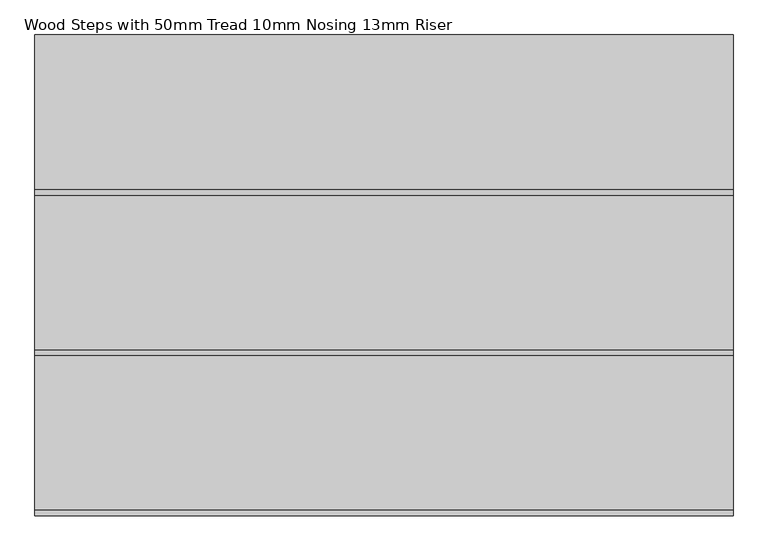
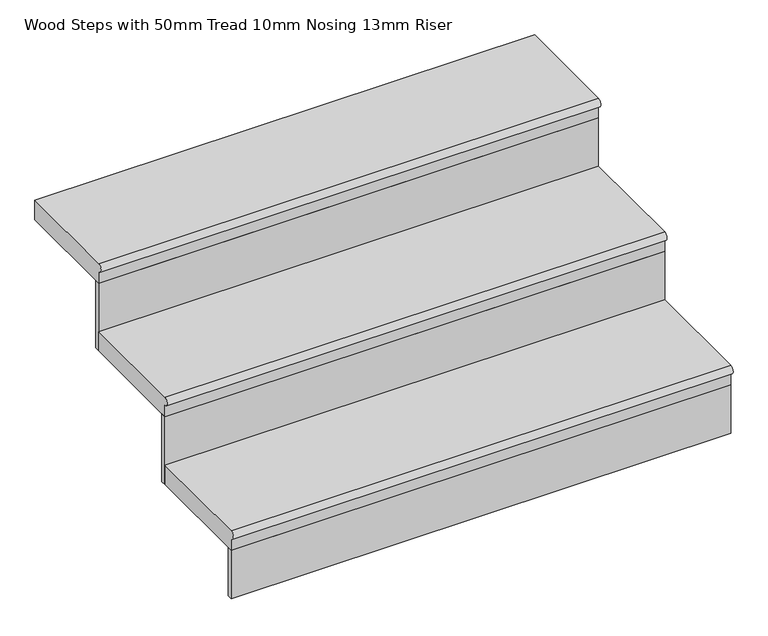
"""IFC4 building model written with IfcOpenShell, lengths in millimetres: stair flight geometry, Wood Steps with 50mm Tread 10mm Nosing 13mm Riser."""

from ifc_helpers import new_model, si_unit, point, frame, frame_2d, origin, place, context, project, spatial, polyline, circle_curve, trimmed, segment, composite_curve, outline, extrude, source, transform, mapped, element, save


def wood_steps_with_50mm_tread_10mm_nosing_13mm_riser_d08ba6e4(model_context):
    return source(origin(), model_context, "Body", "SweptSolid", [
        extrude(outline(composite_curve([segment(polyline([(1045.1293333, -6825.0), (1325.1293333, -6825.0), (1325.1293333, -6875.0), (1045.1293333, -6875.0), (1045.1293333, -6845.0)]), True, "CONTINUOUS"), segment(trimmed(circle_curve(frame_2d((1045.1293333, -6835.0)), 10.0), [point((1045.1293333, -6845.0))], [point((1045.1293333, -6825.0))], False, "CARTESIAN"), True, "CONTINUOUS")], self_intersect=False)), frame((2492.3539947, 0.0, 0.0), z_axis=(1.0, 0.0, 0.0), x_axis=(0.0, 1.0, 0.0)), (0.0, 0.0, 1.0), 1220.0),
        extrude(outline(polyline([(3712.3539947, 1057.6293333), (3712.3539947, 1045.1293333), (2492.3539947, 1045.1293333), (2492.3539947, 1057.6293333), (3712.3539947, 1057.6293333)])), frame((0.0, 0.0, -7000.0), z_axis=(0.0, 0.0, 1.0), x_axis=(1.0, 0.0, 0.0)), (0.0, 0.0, 1.0), 125.0),
        extrude(outline(composite_curve([segment(polyline([(1325.1293333, -6650.0), (1605.1293333, -6650.0), (1605.1293333, -6700.0), (1325.1293333, -6700.0), (1325.1293333, -6670.0)]), True, "CONTINUOUS"), segment(trimmed(circle_curve(frame_2d((1325.1293333, -6660.0)), 10.0), [point((1325.1293333, -6670.0))], [point((1325.1293333, -6650.0))], False, "CARTESIAN"), True, "CONTINUOUS")], self_intersect=False)), frame((2492.3539947, 0.0, 0.0), z_axis=(1.0, 0.0, 0.0), x_axis=(0.0, 1.0, 0.0)), (0.0, 0.0, 1.0), 1220.0),
        extrude(outline(polyline([(3712.3539947, 1337.6293333), (3712.3539947, 1325.1293333), (2492.3539947, 1325.1293333), (2492.3539947, 1337.6293333), (3712.3539947, 1337.6293333)])), frame((0.0, 0.0, -6875.0), z_axis=(0.0, 0.0, 1.0), x_axis=(1.0, 0.0, 0.0)), (0.0, 0.0, 1.0), 175.0),
        extrude(outline(composite_curve([segment(polyline([(1605.1293333, -6475.0), (1875.1293333, -6475.0), (1875.1293333, -6525.0), (1605.1293333, -6525.0), (1605.1293333, -6495.0)]), True, "CONTINUOUS"), segment(trimmed(circle_curve(frame_2d((1605.1293333, -6485.0)), 10.0), [point((1605.1293333, -6495.0))], [point((1605.1293333, -6475.0))], False, "CARTESIAN"), True, "CONTINUOUS")], self_intersect=False)), frame((2492.3539947, 0.0, 0.0), z_axis=(1.0, 0.0, 0.0), x_axis=(0.0, 1.0, 0.0)), (0.0, 0.0, 1.0), 1220.0),
        extrude(outline(polyline([(3712.3539947, 1617.6293333), (3712.3539947, 1605.1293333), (2492.3539947, 1605.1293333), (2492.3539947, 1617.6293333), (3712.3539947, 1617.6293333)])), frame((0.0, 0.0, -6700.0), z_axis=(0.0, 0.0, 1.0), x_axis=(1.0, 0.0, 0.0)), (0.0, 0.0, 1.0), 175.0),
    ])


if __name__ == "__main__":
    model = new_model("IFC4")
    model_context = context("Model", 3, world=origin())
    ifc_project = project(units=[si_unit("LENGTHUNIT", "METRE", prefix="MILLI")], contexts=[model_context])
    site = spatial("IfcSite", under=ifc_project)
    building = spatial("IfcBuilding", under=site)
    placement = place(None, origin())
    wood_steps_with_50mm_tread_10mm_nosing_13mm_riser_shape = wood_steps_with_50mm_tread_10mm_nosing_13mm_riser_d08ba6e4(model_context)
    element("IfcStairFlight", 1, ObjectType="Wood Steps with 50mm Tread 10mm Nosing 13mm Riser", at=placement, inside=building, context=model_context, shape_type="MappedRepresentation", body=[
        mapped(wood_steps_with_50mm_tread_10mm_nosing_13mm_riser_shape, transform((0.0, 0.0, 0.0), x_axis=(1.0, 0.0, 0.0), y_axis=(0.0, 1.0, 0.0), z_axis=(0.0, 0.0, 1.0))),
    ])
    save(model, "model.ifc")
